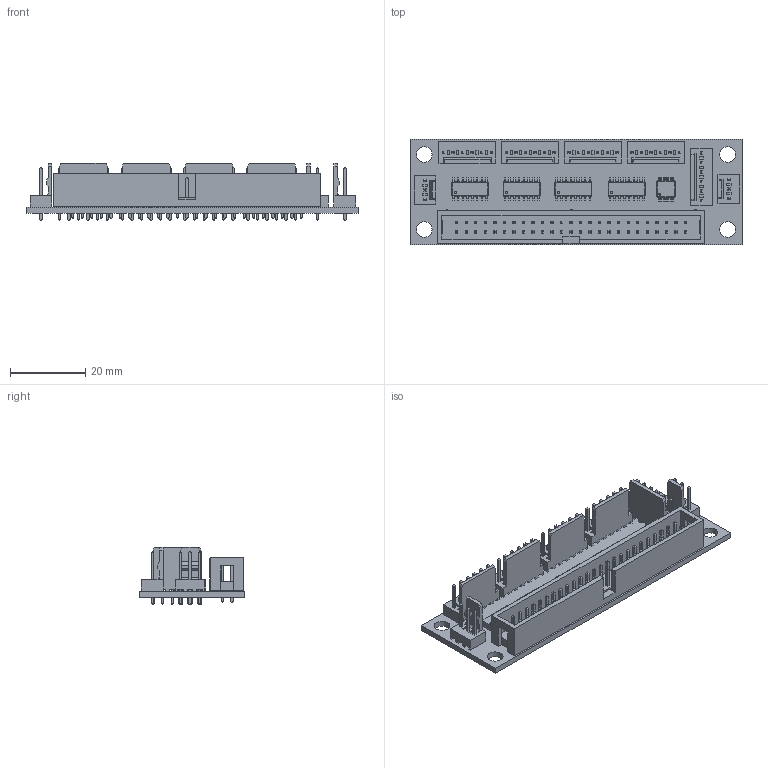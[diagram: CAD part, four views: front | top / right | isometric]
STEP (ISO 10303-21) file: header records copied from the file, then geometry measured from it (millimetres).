
FILE_DESCRIPTION(('KiCad electronic assembly'),'2;1');
FILE_NAME('ExpBreakout.step','2019-10-23T08:57:52',('An Author'),( 'A Company'),'Open CASCADE STEP processor 6.9', 'KiCad to STEP converter','Unknown');
FILE_SCHEMA(('AUTOMOTIVE_DESIGN { 1 0 10303 214 1 1 1 1 }'));
Length unit declared in the file: millimetre
Products named in the file (12): Open CASCADE STEP translator 6.9 1; SOIC-16_3.9x9.9mm_P1.27mm; SOLID; TSSOP-14_4.4x5mm_P0.65mm; Molex_KK-254_AE-6410-03A_1x03_P2.54mm_Vertical; Molex_KK-254_AE-6410-06A_1x06_P2.54mm_Vertical; IDC-Header_2x25_P2.54mm_Vertical; COMPOUND
Assembly tree (19 placements, depth 3):
  Open CASCADE STEP translator 6.9 1
    SOIC-16_3.9x9.9mm_P1.27mm  x4
      SOLID
    TSSOP-14_4.4x5mm_P0.65mm
      SOLID
    Molex_KK-254_AE-6410-03A_1x03_P2.54mm_Vertical  x2
      SOLID
    Molex_KK-254_AE-6410-06A_1x06_P2.54mm_Vertical  x5
      SOLID
    IDC-Header_2x25_P2.54mm_Vertical
      SOLID
    COMPOUND
Bounding box: 88.5 x 28 x 15.26 mm (x, y, z)
Volume: 9141.2 mm3; surface area: 15733.8 mm2
Topology: 14 solids, 14 shells, 3415 faces, 8510 edges, 5302 vertices
Faces by surface type: plane 2794, cylinder 423, bspline 198
Full cylindrical faces by diameter (mm): 0.5 x1, 0.6 x4, 1 x92, 4.201 x4
Entity records: 122703 total; most frequent: CARTESIAN_POINT 20202, DIRECTION 16700, LINE 12134, VECTOR 12134, ORIENTED_EDGE 8848, PCURVE 8848, DEFINITIONAL_REPRESENTATION 8848, EDGE_CURVE 4424
